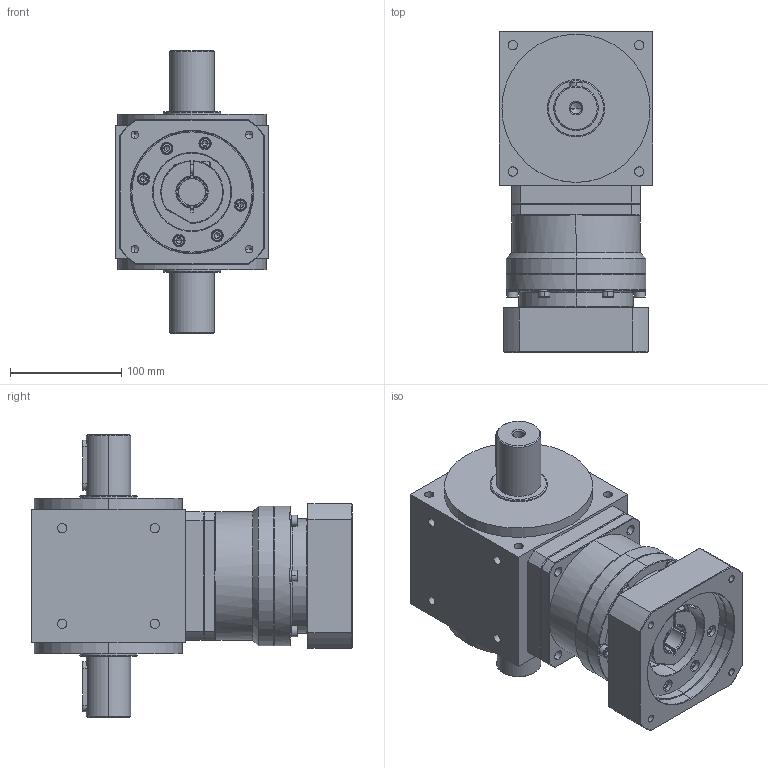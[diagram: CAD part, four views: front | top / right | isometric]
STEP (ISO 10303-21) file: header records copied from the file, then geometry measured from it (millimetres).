
FILE_DESCRIPTION (( 'STEP AP214' ), '1' );
FILE_NAME ('AAW135AS-L1-2P 24-110-145-M8.STEP', '2025-04-08T09:05:04', ( '微软用户' ), ( '微软中国' ), 'SwSTEP 2.0', 'SolidWorks 2024', '' );
FILE_SCHEMA (( 'AUTOMOTIVE_DESIGN' ));
Length unit declared in the file: millimetre
Products named in the file (3): AAW135AS-2P; AAW135AS-L1-2P 24-110-145-M8; VRB-115-L1-S2-P1 24-110-145-M8
Assembly tree (2 placements, depth 2):
  AAW135AS-L1-2P 24-110-145-M8
    AAW135AS-2P
    VRB-115-L1-S2-P1 24-110-145-M8
Bounding box: 138 x 288 x 254 mm (x, y, z)
Volume: 4428053.6 mm3; surface area: 352891.4 mm2
Topology: 33 solids, 33 shells, 1090 faces, 2627 edges, 1643 vertices
Faces by surface type: plane 456, cylinder 406, cone 188, bspline 36, torus 4
Entity records: 32947 total; most frequent: CARTESIAN_POINT 6980, DIRECTION 5650, ORIENTED_EDGE 5130, EDGE_CURVE 2565, AXIS2_PLACEMENT_3D 2235, VERTEX_POINT 1643, EDGE_LOOP 1236, LINE 1180
